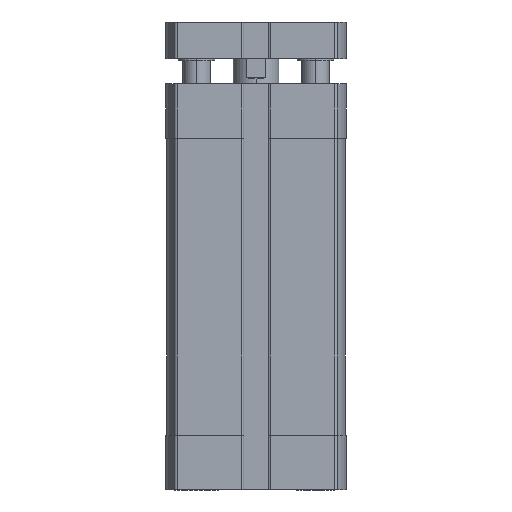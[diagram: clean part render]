
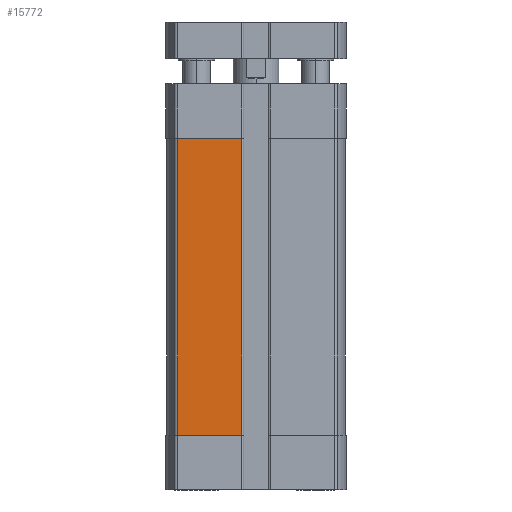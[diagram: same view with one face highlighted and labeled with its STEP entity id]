
A CAD part, front view. The second image highlights one B-rep face of the part: STEP entity #15772.
In plain terms, the highlighted planar face has unit normal (0, -1, 0) as drawn and (-1, 0, 0) by its records, which use the part's own axes.
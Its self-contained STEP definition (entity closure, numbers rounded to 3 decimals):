
#560 = CARTESIAN_POINT ( 'NONE',  ( -19.5, 17.091, -12. ) ) ;
#796 = VECTOR ( 'NONE', #6862, 1000. ) ;
#1632 = VERTEX_POINT ( 'NONE', #17928 ) ;
#1692 = CARTESIAN_POINT ( 'NONE',  ( -19.5, 3.1, -77. ) ) ;
#2100 = PLANE ( 'NONE',  #15771 ) ;
#3576 = DIRECTION ( 'NONE',  ( 0., 0., 1. ) ) ;
#3679 = EDGE_CURVE ( 'NONE', #15514, #5881, #11132, .T. ) ;
#3760 = DIRECTION ( 'NONE',  ( 0., 1., 0. ) ) ;
#4327 = VECTOR ( 'NONE', #13466, 1000. ) ;
#5466 = DIRECTION ( 'NONE',  ( 0., 0., 1. ) ) ;
#5881 = VERTEX_POINT ( 'NONE', #560 ) ;
#6862 = DIRECTION ( 'NONE',  ( 0., 0., -1. ) ) ;
#6910 = EDGE_LOOP ( 'NONE', ( #7825, #15743, #16363, #15924 ) ) ;
#7825 = ORIENTED_EDGE ( 'NONE', *, *, #16686, .T. ) ;
#7848 = CARTESIAN_POINT ( 'NONE',  ( -19.5, 17.091, -77. ) ) ;
#8311 = CARTESIAN_POINT ( 'NONE',  ( -19.5, 3.1, -77. ) ) ;
#8510 = LINE ( 'NONE', #11249, #796 ) ;
#8886 = CARTESIAN_POINT ( 'NONE',  ( -19.5, 17.091, -77. ) ) ;
#9119 = EDGE_CURVE ( 'NONE', #5881, #1632, #8510, .T. ) ;
#9542 = VECTOR ( 'NONE', #5466, 1000. ) ;
#11061 = VERTEX_POINT ( 'NONE', #1692 ) ;
#11132 = LINE ( 'NONE', #17059, #17283 ) ;
#11249 = CARTESIAN_POINT ( 'NONE',  ( -19.5, 17.091, -77. ) ) ;
#11622 = CARTESIAN_POINT ( 'NONE',  ( -19.5, 3.1, -12. ) ) ;
#12417 = DIRECTION ( 'NONE',  ( -1., 0., 0. ) ) ;
#13466 = DIRECTION ( 'NONE',  ( 0., -1., 0. ) ) ;
#13847 = FACE_OUTER_BOUND ( 'NONE', #6910, .T. ) ;
#14101 = LINE ( 'NONE', #8311, #9542 ) ;
#15439 = EDGE_CURVE ( 'NONE', #11061, #15514, #14101, .T. ) ;
#15514 = VERTEX_POINT ( 'NONE', #11622 ) ;
#15743 = ORIENTED_EDGE ( 'NONE', *, *, #15439, .T. ) ;
#15771 = AXIS2_PLACEMENT_3D ( 'NONE', #7848, #12417, #3576 ) ;
#15772 = ADVANCED_FACE ( 'NONE', ( #13847 ), #2100, .T. ) ;
#15924 = ORIENTED_EDGE ( 'NONE', *, *, #9119, .T. ) ;
#16363 = ORIENTED_EDGE ( 'NONE', *, *, #3679, .T. ) ;
#16598 = LINE ( 'NONE', #8886, #4327 ) ;
#16686 = EDGE_CURVE ( 'NONE', #1632, #11061, #16598, .T. ) ;
#17059 = CARTESIAN_POINT ( 'NONE',  ( -19.5, 0., -12. ) ) ;
#17283 = VECTOR ( 'NONE', #3760, 1000. ) ;
#17928 = CARTESIAN_POINT ( 'NONE',  ( -19.5, 17.091, -77. ) ) ;
